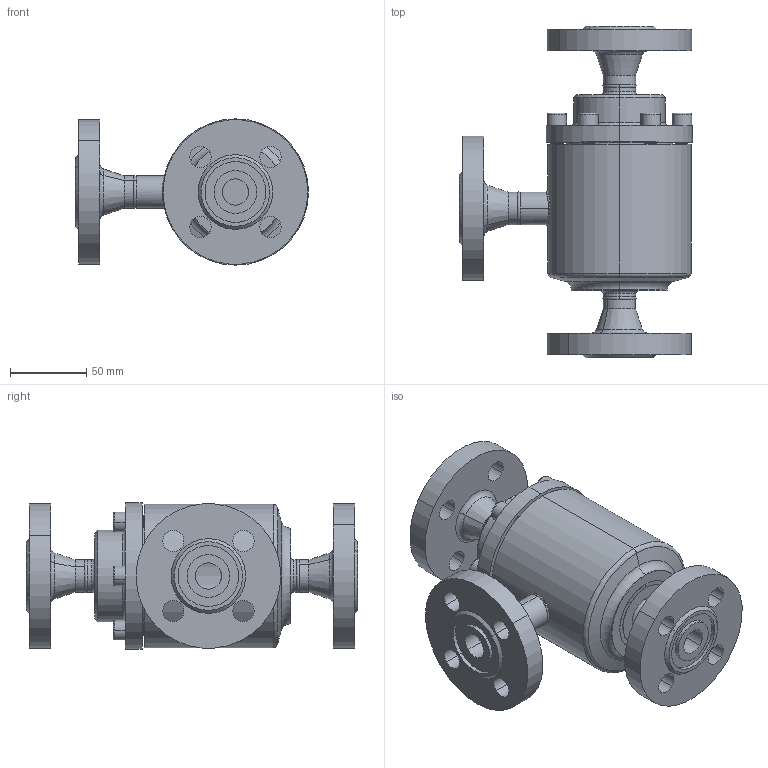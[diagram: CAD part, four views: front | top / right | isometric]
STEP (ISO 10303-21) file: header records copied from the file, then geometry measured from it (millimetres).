
FILE_DESCRIPTION (( 'STEP AP214' ), '1' );
FILE_NAME ('TR47020C10-DN15_DIN_PS40.STEP', '2005-08-10T11:28:02', ( 'Herr Grams' ), ( 'AWP GmbH' ), 'SwSTEP 2.0', 'SolidWorks 2002296', '' );
FILE_SCHEMA (( 'AUTOMOTIVE_DESIGN' ));
Length unit declared in the file: millimetre
Products named in the file (14): TR47020C10-DN15_DIN_PS40; Deckel47000E10_DN15_PS40_R1_Standard; Geh-kpl47020E10-DN15_PS40_DIN_Standard; Geh47000E10_DN15_PS40_R1_Standard; Stutzenteil47000E10_DN15_PS40_R1_Standard; RohrstutzA47000E10-DN15_PS40_R1_Standard; bead10-2_Standard; bead11-1_Standard; bead10-5_Standard; bead10-4_Standard; Führungsring47050-11-DN15-40_Standard; Zylinderschraube-DIN912-M 8x22_M 8x 22; Flansch-DIN-Nut_PS40_DIN-Flansch-DN015_PS40-Nut; TR15-1_Standard
Assembly tree (20 placements, depth 3):
  TR47020C10-DN15_DIN_PS40
    Flansch-DIN-Nut_PS40_DIN-Flansch-DN015_PS40-Nut
    Geh-kpl47020E10-DN15_PS40_DIN_Standard
      Flansch-DIN-Nut_PS40_DIN-Flansch-DN015_PS40-Nut  x2
      bead10-2_Standard
      Stutzenteil47000E10_DN15_PS40_R1_Standard
      bead11-1_Standard
      bead10-5_Standard
      RohrstutzA47000E10-DN15_PS40_R1_Standard
      bead10-4_Standard
      Geh47000E10_DN15_PS40_R1_Standard
    Führungsring47050-11-DN15-40_Standard
    TR15-1_Standard
    Zylinderschraube-DIN912-M 8x22_M 8x 22  x6
    Deckel47000E10_DN15_PS40_R1_Standard
Bounding box: 153 x 217.5 x 96 mm (x, y, z)
Volume: 768401 mm3; surface area: 191039.4 mm2
Topology: 19 solids, 19 shells, 572 faces, 1436 edges, 930 vertices
Faces by surface type: cylinder 346, plane 110, cone 56, torus 30, bspline 30
Entity records: 24269 total; most frequent: CARTESIAN_POINT 17811, ORIENTED_EDGE 1140, DIRECTION 1112, EDGE_CURVE 570, AXIS2_PLACEMENT_3D 464, VERTEX_POINT 362, EDGE_LOOP 302, ADVANCED_FACE 242
